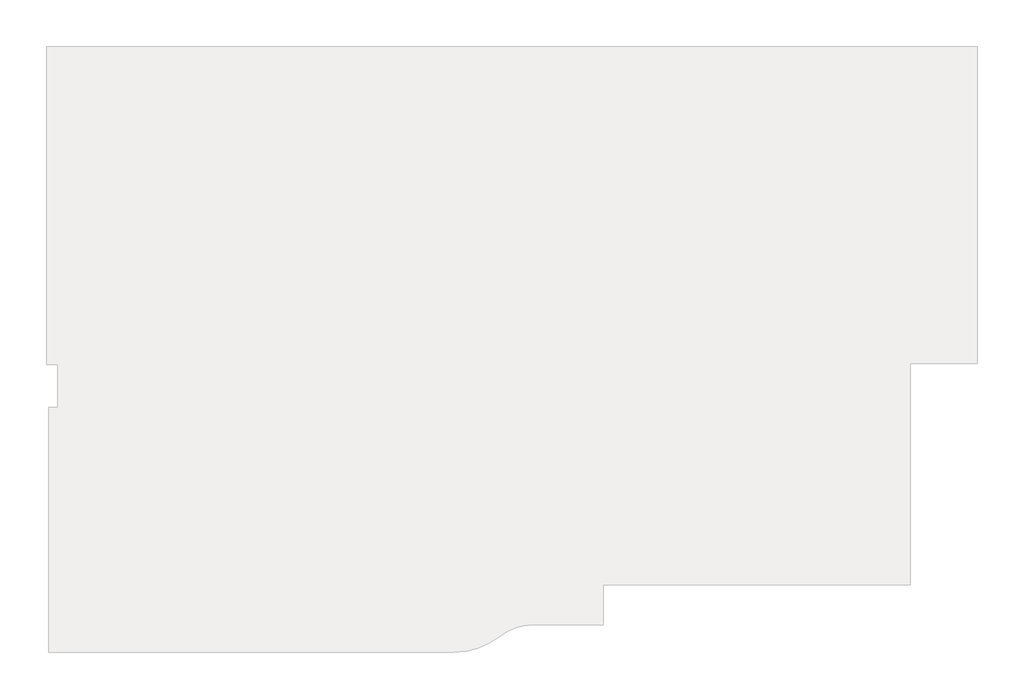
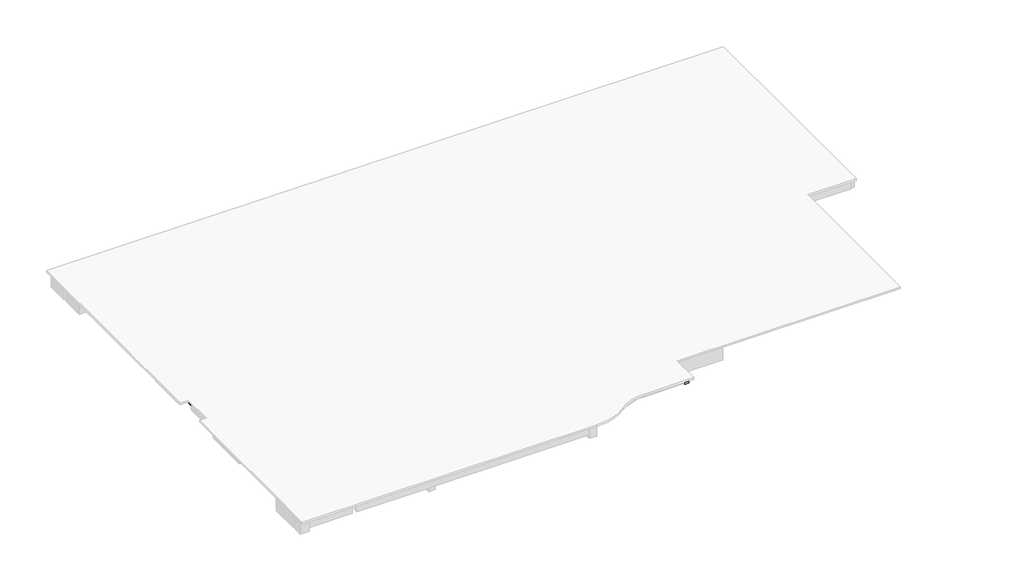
# One storey, part 2 of 3: 31 beams.
"""IFC4 building model written with IfcOpenShell, lengths in millimetres."""

import ifcopenshell
import ifcopenshell.guid

model = None  # the IFC model being written
_history = None  # IfcOwnerHistory: only IFC2X3 demands one
_inside = {}  # id of a spatial element -> (the spatial element, [elements in it])
_under = {}  # id of a project, library or spatial element -> (it, [spatial elements below it])
_declared = {}  # id of a project -> (the project, [libraries it declares])
_typed = {}  # id of a type object -> (the type object, [elements of that type])
_made_of = {}  # id of a material, layer set ... -> (it, [elements and type objects made of it])


def new_model(schema):
    """Start an empty IFC model of exactly this schema.

    Asked for "IFC4X3", IfcOpenShell would pick the latest addendum, in which some entities
    have other attributes; the version numbers below select the first issue.
    IFC2X3 requires an IfcOwnerHistory on every rooted entity: one is made here for all.
    """
    global model, _history
    if schema == "IFC4X3":
        model = ifcopenshell.file(schema_version=(4, 3, 0, 0))
    else:
        model = ifcopenshell.file(schema=schema)
    _inside.clear()
    _under.clear()
    _declared.clear()
    _typed.clear()
    _made_of.clear()
    _history = None
    if model.schema == "IFC2X3":
        org = make("IfcOrganization", Name="unknown")
        user = make(
            "IfcPersonAndOrganization",
            ThePerson=make("IfcPerson", FamilyName="unknown"),
            TheOrganization=org,
        )
        app = make(
            "IfcApplication",
            ApplicationDeveloper=org,
            Version="unknown",
            ApplicationFullName="unknown",
            ApplicationIdentifier="unknown",
        )
        _history = make(
            "IfcOwnerHistory",
            OwningUser=user,
            OwningApplication=app,
            ChangeAction="ADDED",
            CreationDate=0,
        )
    return model


def make(cls, **values):
    """One entity of the class cls with the attributes given. An attribute that is None is left unset."""
    return model.create_entity(
        cls, **{name: value for name, value in values.items() if value is not None}
    )


def rooted(cls, **values):
    """An entity with a GlobalId (a new one), such as an element, a storey or a relation."""
    return make(cls, GlobalId=ifcopenshell.guid.new(), OwnerHistory=_history, **values)


def si_unit(unit_type, name, prefix=None):
    """IfcSIUnit, for example si_unit("LENGTHUNIT", "METRE", prefix="MILLI")."""
    return make("IfcSIUnit", UnitType=unit_type, Prefix=prefix, Name=name)


def assignment(units):
    """IfcUnitAssignment: the units of a project."""
    return None if units is None else make("IfcUnitAssignment", Units=units)


def point(xyz):
    """IfcCartesianPoint."""
    return None if xyz is None else make("IfcCartesianPoint", Coordinates=xyz)


def direction(xyz):
    """IfcDirection."""
    return None if xyz is None else make("IfcDirection", DirectionRatios=xyz)


def frame(location, z_axis=None, x_axis=None):
    """IfcAxis2Placement3D, a coordinate frame: its origin and axes. An axis left out is left unset."""
    return make(
        "IfcAxis2Placement3D",
        Location=point(location),
        Axis=direction(z_axis),
        RefDirection=direction(x_axis),
    )


def origin():
    """The frame at (0, 0, 0) with its axes left unset."""
    return frame((0.0, 0.0, 0.0))


def place(relative_to, where):
    """IfcLocalPlacement: puts the frame where relative to a parent placement (None: the world)."""
    return make(
        "IfcLocalPlacement", PlacementRelTo=relative_to, RelativePlacement=where
    )


def context(
    kind, dimensions, precision=None, world=None, true_north=None, identifier=None
):
    """IfcGeometricRepresentationContext, for example the 3D "Model" context."""
    return make(
        "IfcGeometricRepresentationContext",
        ContextIdentifier=identifier,
        ContextType=kind,
        CoordinateSpaceDimension=dimensions,
        Precision=precision,
        WorldCoordinateSystem=world,
        TrueNorth=true_north,
    )


def project(units=None, contexts=None):
    """IfcProject with its units and contexts."""
    return rooted(
        "IfcProject",
        Name="project",
        RepresentationContexts=contexts,
        UnitsInContext=assignment(units),
    )


def spatial(cls, under=None, at=None, **own):
    """A site, building, storey or space (cls), placed at a placement, below another one or the project."""
    s = rooted(cls, ObjectPlacement=at, **own)
    if under is not None:
        _under.setdefault(under.id(), (under, []))[1].append(s)
    return s


def polyline(points):
    """IfcPolyline through the points."""
    return make("IfcPolyline", Points=[point(p) for p in points])


def outline(outer, holes=None, kind="AREA"):
    """IfcArbitraryClosedProfileDef: a profile drawn as a closed curve; with holes, ...WithVoids."""
    if holes is None:
        return make("IfcArbitraryClosedProfileDef", ProfileType=kind, OuterCurve=outer)
    return make(
        "IfcArbitraryProfileDefWithVoids",
        ProfileType=kind,
        OuterCurve=outer,
        InnerCurves=holes,
    )


def extrude(swept, where, along, depth):
    """IfcExtrudedAreaSolid: the profile swept, set in the frame where, extruded along a direction by depth."""
    return make(
        "IfcExtrudedAreaSolid",
        SweptArea=swept,
        Position=where,
        ExtrudedDirection=direction(along),
        Depth=depth,
    )


def faces_of(points, faces, orient=None, outer=None):
    """IfcFace entities. A face is a list of loops; a loop is a list of indices into points, from 0.

    orient and outer hold one flag for each loop. By default every Orientation is true, the
    first loop of a face is its IfcFaceOuterBound and the others are IfcFaceBound.
    """
    made = []
    for i, loops in enumerate(faces):
        bounds = []
        for j, loop in enumerate(loops):
            is_outer = j == 0 if outer is None else outer[i][j]
            bounds.append(
                make(
                    "IfcFaceOuterBound" if is_outer else "IfcFaceBound",
                    Bound=make("IfcPolyLoop", Polygon=[points[k] for k in loop]),
                    Orientation=True if orient is None else orient[i][j],
                )
            )
        made.append(make("IfcFace", Bounds=bounds))
    return made


def faceted_brep(points, faces, orient=None, outer=None, voids=None):
    """IfcFacetedBrep: a solid bounded by flat faces; with voids (closed shells), ...WithVoids."""
    shared = [point(p) for p in points]
    hull = make("IfcClosedShell", CfsFaces=faces_of(shared, faces, orient, outer))
    if voids is None:
        return make("IfcFacetedBrep", Outer=hull)
    return make(
        "IfcFacetedBrepWithVoids",
        Outer=hull,
        Voids=[
            make(cls, CfsFaces=faces_of(shared, fs, o, b)) for cls, fs, o, b in voids
        ],
    )


def shape(context_of_items, identifier, shape_type, items):
    """IfcShapeRepresentation: the items that make up one representation, for example the "Body"."""
    return make(
        "IfcShapeRepresentation",
        ContextOfItems=context_of_items,
        RepresentationIdentifier=identifier,
        RepresentationType=shape_type,
        Items=items,
    )


def made_of(thing, what):
    """Note that an element or type object is made of a material, layer set ...; save() writes the relation."""
    if what is not None:
        _made_of.setdefault(what.id(), (what, []))[1].append(thing)
    return thing


def element(
    cls,
    number,
    at=None,
    inside=None,
    cuts=None,
    type_object=None,
    material=None,
    context=None,
    identifier="Body",
    shape_type=None,
    held_by="IfcProductDefinitionShape",
    body=None,
    shapes=None,
    **own,
):
    """One element of the class cls, such as IfcWall. Its Tag is "e" and its number.

    at: its placement. inside: the storey or other place that contains it. cuts: it is an
    opening in that element (IfcRelVoidsElement). A single representation is given by context,
    identifier, shape_type and body (its items); several are given by shapes. held_by: the class
    of the entity that holds the representations. save() writes the other relations.
    """
    e = rooted(cls, Tag="e%d" % number, ObjectPlacement=at, **own)
    if body is not None:
        shapes = [shape(context, identifier, shape_type, body)]
    if shapes is not None:
        e.Representation = make(held_by, Representations=shapes)
    if inside is not None:
        _inside.setdefault(inside.id(), (inside, []))[1].append(e)
    if cuts is not None:
        rooted(
            "IfcRelVoidsElement", RelatingBuildingElement=cuts, RelatedOpeningElement=e
        )
    if type_object is not None:
        _typed.setdefault(type_object.id(), (type_object, []))[1].append(e)
    return made_of(e, material)


def aggregate(whole, parts):
    """IfcRelAggregates: a whole, such as a stair, and the parts it consists of."""
    return rooted("IfcRelAggregates", RelatingObject=whole, RelatedObjects=parts)


def save(model, path):
    """Write the relations noted so far, then the file.

    IfcRelAggregates (storeys below a building ...), IfcRelContainedInSpatialStructure (elements
    in a storey), IfcRelDefinesByType, IfcRelAssociatesMaterial and IfcRelDeclares: one each for
    every whole, place, type object, material and project.
    """
    for whole, parts in _under.values():
        aggregate(whole, parts)
    for where, things in _inside.values():
        rooted(
            "IfcRelContainedInSpatialStructure",
            RelatedElements=things,
            RelatingStructure=where,
        )
    for kind, things in _typed.values():
        rooted("IfcRelDefinesByType", RelatedObjects=things, RelatingType=kind)
    for what, things in _made_of.values():
        rooted("IfcRelAssociatesMaterial", RelatedObjects=things, RelatingMaterial=what)
    for by, libraries in _declared.values():
        rooted("IfcRelDeclares", RelatingContext=by, RelatedDefinitions=libraries)
    model.write(path)


model = new_model("IFC4")

# Units and contexts
model_context = context("Model", 3, world=origin())
ifc_project = project(units=[si_unit("LENGTHUNIT", "METRE", prefix="MILLI")], contexts=[model_context])

# Site, building, storey
site = spatial("IfcSite", under=ifc_project)
building = spatial("IfcBuilding", under=site)
storey = spatial("IfcBuildingStorey", under=building, Name="21F(S)", Elevation=4100.0)

# Beams
placement = place(None, origin())
element("IfcBeam", 1, ObjectType="混凝土 - 矩形梁 : 150x400", at=placement, inside=storey, context=model_context, shape_type="SweptSolid", body=[
    extrude(outline(polyline([(31799.9994292, 0.503091), (31649.9994292, 0.503091), (31649.9994292, 2319.503091), (31799.9994292, 2319.503091), (31799.9994292, 0.503091)])), frame((0.0, 0.0, 3700.0), z_axis=(0.0, 0.0, 1.0), x_axis=(1.0, 0.0, 0.0)), (0.0, 0.0, 1.0), 300.0),
])
element("IfcBeam", 2, ObjectType="混凝土 - 矩形梁 : 200x400", at=placement, inside=storey, context=model_context, shape_type="SweptSolid", body=[
    extrude(outline(polyline([(29149.9999994, 6119.99237), (29149.9999994, 5919.99237), (27849.9999994, 5919.99237), (27849.9999994, 6119.99237), (29149.9999994, 6119.99237)])), frame((0.0, 0.0, 3700.0), z_axis=(0.0, 0.0, 1.0), x_axis=(1.0, 0.0, 0.0)), (0.0, 0.0, 1.0), 300.0),
])
element("IfcBeam", 3, ObjectType="混凝土 - 矩形梁 : 200x400", at=placement, inside=storey, context=model_context, shape_type="SweptSolid", body=[
    extrude(outline(polyline([(26449.9999987, 6119.99237), (26449.9999987, 5919.99237), (25149.9999987, 5919.99237), (25149.9999987, 6119.99237), (26449.9999987, 6119.99237)])), frame((0.0, 0.0, 3700.0), z_axis=(0.0, 0.0, 1.0), x_axis=(1.0, 0.0, 0.0)), (0.0, 0.0, 1.0), 300.0),
])
element("IfcBeam", 4, ObjectType="混凝土 - 矩形梁 : 200x400", at=placement, inside=storey, context=model_context, shape_type="SweptSolid", body=[
    extrude(outline(polyline([(32349.4996529, 6119.8951153), (32349.4996529, 5919.8951153), (29950.4996529, 5919.8951153), (29950.4996529, 6119.8951153), (32349.4996529, 6119.8951153)])), frame((0.0, 0.0, 3700.0), z_axis=(0.0, 0.0, 1.0), x_axis=(1.0, 0.0, 0.0)), (0.0, 0.0, 1.0), 300.0),
])
element("IfcBeam", 5, ObjectType="混凝土 - 矩形梁 : 200x400", at=placement, inside=storey, context=model_context, shape_type="SweptSolid", body=[
    extrude(outline(polyline([(25659.9999994, 2519.99237), (25659.9999994, 2319.99237), (24419.9999994, 2319.99237), (24419.9999994, 2519.99237), (25659.9999994, 2519.99237)])), frame((0.0, 0.0, 3700.0), z_axis=(0.0, 0.0, 1.0), x_axis=(1.0, 0.0, 0.0)), (0.0, 0.0, 1.0), 300.0),
])
element("IfcBeam", 6, ObjectType="混凝土 - 矩形梁 : 200x400", at=placement, inside=storey, context=model_context, shape_type="SweptSolid", body=[
    extrude(outline(polyline([(28349.9999993, 2519.99237), (28349.9999993, 2319.99237), (27049.9999993, 2319.99237), (27049.9999993, 2519.99237), (28349.9999993, 2519.99237)])), frame((0.0, 0.0, 3700.0), z_axis=(0.0, 0.0, 1.0), x_axis=(1.0, 0.0, 0.0)), (0.0, 0.0, 1.0), 300.0),
])
element("IfcBeam", 7, ObjectType="混凝土 - 矩形梁 : 200x400", at=placement, inside=storey, context=model_context, shape_type="SweptSolid", body=[
    extrude(outline(polyline([(31049.9999995, 2519.99237), (31049.9999995, 2319.99237), (29749.9999995, 2319.99237), (29749.9999995, 2519.99237), (31049.9999995, 2519.99237)])), frame((0.0, 0.0, 3700.0), z_axis=(0.0, 0.0, 1.0), x_axis=(1.0, 0.0, 0.0)), (0.0, 0.0, 1.0), 300.0),
])
element("IfcBeam", 8, ObjectType="混凝土 - 矩形梁 : 200x400", at=placement, inside=storey, context=model_context, shape_type="Brep", body=[
    faceted_brep([(2760.4996561, 14919.8960966, 3700.0), (2760.4996561, 14719.8960966, 3700.0), (2760.4996561, 14719.8960966, 4000.0), (2760.4996561, 14919.8960966, 4000.0), (3750.0289826, 14719.8960966, 3700.0), (3950.0289826, 14719.8960966, 3700.0), (6149.9993113, 14719.8960966, 3700.0), (6149.9993113, 14719.8960966, 4000.0), (3950.0289826, 14719.8960966, 4000.0), (3750.0289826, 14719.8960966, 4000.0), (6149.9993113, 14919.8960966, 3700.0), (6149.9993113, 14919.8960966, 4000.0)], [[[0, 1, 2, 3]], [[1, 4, 5, 6, 7, 8, 9, 2]], [[1, 0, 10, 6, 5, 4]], [[10, 0, 3, 11]], [[6, 10, 11, 7]], [[3, 2, 9, 8, 7, 11]]]),
])
element("IfcBeam", 9, ObjectType="混凝土 - 矩形梁 : 200x400", at=placement, inside=storey, context=model_context, shape_type="SweptSolid", body=[
    extrude(outline(polyline([(3950.0289826, 13900.5031102), (3750.0289826, 13900.5031102), (3750.0289826, 14719.8960966), (3950.0289826, 14719.8960966), (3950.0289826, 13900.5031102)])), frame((0.0, 0.0, 3700.0), z_axis=(0.0, 0.0, 1.0), x_axis=(1.0, 0.0, 0.0)), (0.0, 0.0, 1.0), 300.0),
])
element("IfcBeam", 10, ObjectType="混凝土 - 矩形梁 : 200x400", at=placement, inside=storey, context=model_context, shape_type="SweptSolid", body=[
    extrude(outline(polyline([(24619.9999987, 6119.99237), (24419.9999987, 6119.99237), (24419.9999987, 8439.99237), (24619.9999987, 8439.99237), (24619.9999987, 6119.99237)])), frame((0.0, 0.0, 3700.0), z_axis=(0.0, 0.0, 1.0), x_axis=(1.0, 0.0, 0.0)), (0.0, 0.0, 1.0), 300.0),
])
element("IfcBeam", 11, ObjectType="混凝土 - 矩形梁 : 200x400", at=placement, inside=storey, context=model_context, shape_type="SweptSolid", body=[
    extrude(outline(polyline([(-149.4999646, 12580.0061443), (-149.4999646, 12780.0061443), (2460.0000009, 12780.0061443), (2460.0000009, 12580.0061443), (-149.4999646, 12580.0061443)])), frame((0.0, 0.0, 3700.0), z_axis=(0.0, 0.0, 1.0), x_axis=(1.0, 0.0, 0.0)), (0.0, 0.0, 1.0), 300.0),
])
element("IfcBeam", 12, ObjectType="混凝土 - 矩形梁 : 200x400", at=placement, inside=storey, context=model_context, shape_type="Brep", body=[
    faceted_brep([(3650.0289828, 13599.917579, 3700.0), (3450.0289828, 13599.917579, 3700.0), (3450.0289828, 13599.917579, 4000.0), (3650.0289828, 13599.917579, 4000.0), (3450.0289828, 12550.0138523, 3700.0), (3450.0289828, 12350.0138523, 3700.0), (3450.0289828, 11300.1024559, 3700.0), (3450.0289828, 11300.1024559, 4000.0), (3450.0289828, 12350.0138523, 4000.0), (3450.0289828, 12550.0138523, 4000.0), (3650.0289828, 11300.1024559, 3700.0), (3650.0289828, 11300.1024559, 4000.0)], [[[0, 1, 2, 3]], [[1, 4, 5, 6, 7, 8, 9, 2]], [[1, 0, 10, 6, 5, 4]], [[10, 0, 3, 11]], [[6, 10, 11, 7]], [[3, 2, 9, 8, 7, 11]]]),
])
element("IfcBeam", 13, ObjectType="混凝土 - 矩形梁 : 200x400", at=placement, inside=storey, context=model_context, shape_type="Brep", body=[
    faceted_brep([(2760.0144919, 12550.0138523, 3700.0), (2760.0144919, 12350.0138523, 3700.0), (2760.0144919, 12350.0138523, 4000.0), (2760.0144919, 12450.5069463, 4000.0), (2760.0144919, 12550.0138523, 4000.0), (3450.0289828, 12550.0138523, 3700.0), (3450.0289828, 12550.0138523, 4000.0), (3450.0289828, 12350.0138523, 3700.0), (3450.0289828, 12350.0138523, 4000.0)], [[[0, 1, 2, 3, 4]], [[5, 0, 4, 6]], [[1, 0, 5, 7]], [[1, 7, 8, 2]], [[7, 5, 6, 8]], [[4, 3, 2, 8, 6]]]),
])
element("IfcBeam", 14, ObjectType="混凝土 - 矩形梁 : 200x600", at=placement, inside=storey, context=model_context, shape_type="Brep", body=[
    faceted_brep([(20680.0000015, -380.00763, 3500.0), (20680.0000015, -1199.8975826, 3500.0), (20680.0000015, -1399.8975826, 3500.0), (20680.0000015, -1453.0229285, 3500.0), (20680.0000015, -1453.0229285, 4000.0), (20680.0000015, -1399.8975826, 4000.0), (20680.0000015, -1199.8975826, 4000.0), (20680.0000015, -380.00763, 4000.0), (20880.0000015, -1453.0229285, 3500.0), (20880.0000015, -380.00763, 3500.0), (20880.0000015, -380.00763, 4000.0), (20880.0000015, -1453.0229285, 4000.0)], [[[0, 1, 2, 3, 4, 5, 6, 7]], [[8, 3, 2, 1, 0, 9]], [[8, 9, 10, 11]], [[3, 8, 11, 4]], [[9, 0, 7, 10]], [[7, 6, 5, 4, 11, 10]]]),
    faceted_brep([(20880.0000015, 2520.0955285, 3500.0), (20680.0000015, 2520.0955285, 3500.0), (20680.0000015, 2520.0955285, 3600.0), (20880.0000015, 2520.0955285, 3600.0), (20880.0000015, 2220.0955285, 3600.0), (20680.0000015, 2220.0955285, 3600.0), (20680.0000015, 2220.0955285, 4000.0), (20880.0000015, 2220.0955285, 4000.0), (20680.0000015, 619.9847014, 3500.0), (20880.0000015, 619.9847014, 3500.0), (20880.0000015, 619.9847014, 4000.0), (20680.0000015, 619.9847014, 4000.0), (20680.0000015, 1309.9923683, 3500.0), (20680.0000015, 1069.9923683, 3500.0), (20680.0000015, 1069.9923683, 4000.0), (20680.0000015, 1309.9923683, 4000.0), (20880.0000015, 1309.9923683, 3500.0), (20880.0000015, 1069.9923683, 3500.0), (20880.0000015, 1309.9923683, 4000.0), (20880.0000015, 1069.9923683, 4000.0)], [[[0, 1, 2, 3]], [[4, 5, 6, 7]], [[5, 4, 3, 2]], [[8, 9, 10, 11]], [[2, 1, 12, 13, 8, 11, 14, 15, 6, 5]], [[1, 0, 16, 17, 9, 8, 13, 12]], [[0, 3, 4, 7, 18, 19, 10, 9, 17, 16]], [[7, 6, 15, 14, 11, 10, 19, 18]]]),
    faceted_brep([(20880.0000015, 419.9847014, 3500.0), (20680.0000015, 419.9847014, 3500.0), (20680.0000015, 419.9847014, 4000.0), (20880.0000015, 419.9847014, 4000.0), (20680.0000015, 19.99237, 3500.0), (20880.0000015, 19.99237, 3500.0), (20880.0000015, 19.99237, 4000.0), (20680.0000015, 19.99237, 4000.0)], [[[0, 1, 2, 3]], [[4, 5, 6, 7]], [[1, 4, 7, 2]], [[1, 0, 5, 4]], [[5, 0, 3, 6]], [[3, 2, 7, 6]]]),
])
element("IfcBeam", 15, ObjectType="混凝土 - 矩形梁 : 250x500", at=placement, inside=storey, context=model_context, shape_type="Brep", body=[
    faceted_brep([(10525.000833, -200.0, 3600.0), (10525.000833, -2590.0076663, 3600.0), (10525.000833, -2590.0076663, 4000.0), (10525.000833, -200.0, 4000.0), (10775.000833, -2590.0076663, 3600.0), (10775.000833, -200.0, 3600.0), (10775.000833, -200.0, 4000.0), (10775.000833, -2590.0076663, 4000.0)], [[[0, 1, 2, 3]], [[4, 1, 0, 5]], [[4, 5, 6, 7]], [[1, 4, 7, 2]], [[5, 0, 3, 6]], [[3, 2, 7, 6]]]),
    faceted_brep([(10525.000833, 17600.0, 3600.0), (10775.000833, 17600.0, 3600.0), (10775.000833, 17600.0, 4000.0), (10525.000833, 17600.0, 4000.0), (10775.000833, 19989.9923697, 3600.0), (10525.000833, 19989.9923697, 3600.0), (10525.000833, 19989.9923697, 4000.0), (10775.000833, 19989.9923697, 4000.0)], [[[0, 1, 2, 3]], [[4, 5, 6, 7]], [[5, 0, 3, 6]], [[1, 0, 5, 4]], [[1, 4, 7, 2]], [[3, 2, 7, 6]]]),
    faceted_brep([(10775.000833, 17200.0, 3600.0), (10525.000833, 17200.0, 3600.0), (10525.000833, 17200.0, 4000.0), (10775.000833, 17200.0, 4000.0), (10525.000833, 2550.0, 3600.0), (10775.000833, 2550.0, 3600.0), (10775.000833, 2550.0, 4000.0), (10525.000833, 2550.0, 4000.0), (10525.000833, 13900.1101258, 3600.0), (10525.000833, 13600.1101258, 3600.0), (10525.000833, 11250.1024559, 3600.0), (10525.000833, 11000.1024559, 3600.0), (10525.000833, 8900.1100854, 3600.0), (10525.000833, 8500.1100854, 3600.0), (10525.000833, 6980.0056251, 3600.0), (10525.000833, 6880.0056251, 3600.0), (10525.000833, 6169.9770708, 3600.0), (10525.000833, 5919.9770708, 3600.0), (10525.000833, 5919.9770708, 4000.0), (10525.000833, 6169.9770708, 4000.0), (10525.000833, 6880.0056251, 4000.0), (10525.000833, 6980.0056251, 4000.0), (10525.000833, 8500.1100854, 4000.0), (10525.000833, 8900.1100854, 4000.0), (10525.000833, 11000.1024559, 4000.0), (10525.000833, 11250.1024559, 4000.0), (10525.000833, 13600.1101258, 4000.0), (10525.000833, 13900.1101258, 4000.0), (10775.000833, 13900.1101258, 3600.0), (10775.000833, 13600.1101258, 3600.0), (10775.000833, 11250.1024559, 3600.0), (10775.000833, 11000.1024559, 3600.0), (10775.000833, 8900.1100854, 3600.0), (10775.000833, 8500.1100854, 3600.0), (10775.000833, 6980.0056251, 3600.0), (10775.000833, 6880.0056251, 3600.0), (10775.000833, 6169.9770708, 3600.0), (10775.000833, 5919.9770708, 3600.0), (10775.000833, 2900.0000384, 3600.0), (10775.000833, 2800.0000384, 3600.0), (10775.000833, 13900.1101258, 4000.0), (10775.000833, 13600.1101258, 4000.0), (10775.000833, 11250.1024559, 4000.0), (10775.000833, 11000.1024559, 4000.0), (10775.000833, 8900.1100854, 4000.0), (10775.000833, 8500.1100854, 4000.0), (10775.000833, 6980.0056251, 4000.0), (10775.000833, 6880.0056251, 4000.0), (10775.000833, 6169.9770708, 4000.0), (10775.000833, 5919.9770708, 4000.0), (10775.000833, 2900.0000384, 4000.0), (10775.000833, 2800.0000384, 4000.0)], [[[0, 1, 2, 3]], [[4, 5, 6, 7]], [[1, 8, 9, 10, 11, 12, 13, 14, 15, 16, 17, 4, 7, 18, 19, 20, 21, 22, 23, 24, 25, 26, 27, 2]], [[1, 0, 28, 29, 30, 31, 32, 33, 34, 35, 36, 37, 38, 39, 5, 4, 17, 16, 15, 14, 13, 12, 11, 10, 9, 8]], [[5, 39, 38, 37, 36, 35, 34, 33, 32, 31, 30, 29, 28, 0, 3, 40, 41, 42, 43, 44, 45, 46, 47, 48, 49, 50, 51, 6]], [[3, 2, 27, 26, 25, 24, 23, 22, 21, 20, 19, 18, 7, 6, 51, 50, 49, 48, 47, 46, 45, 44, 43, 42, 41, 40]]]),
    faceted_brep([(10775.000833, 2250.0, 3600.0), (10525.000833, 2250.0, 3600.0), (10525.000833, 2250.0, 4000.0), (10775.000833, 2250.0, 4000.0), (10525.000833, 200.0, 3600.0), (10775.000833, 200.0, 3600.0), (10775.000833, 200.0, 4000.0), (10525.000833, 200.0, 4000.0)], [[[0, 1, 2, 3]], [[4, 5, 6, 7]], [[1, 4, 7, 2]], [[1, 0, 5, 4]], [[5, 0, 3, 6]], [[3, 2, 7, 6]]]),
])
element("IfcBeam", 16, ObjectType="混凝土 - 矩形梁 : 250x500", at=placement, inside=storey, context=model_context, shape_type="Brep", body=[
    faceted_brep([(10775.000833, 5919.9770708, 3600.0), (10815.0000007, 5919.9770708, 3600.0), (13565.0000007, 5919.9770708, 3600.0), (13665.0000007, 5919.9770708, 3600.0), (14800.000833, 5919.9770708, 3600.0), (14800.000833, 5919.9770708, 4000.0), (13665.0000007, 5919.9770708, 4000.0), (13565.0000007, 5919.9770708, 4000.0), (10815.0000007, 5919.9770708, 4000.0), (10775.000833, 5919.9770708, 4000.0), (10775.000833, 6169.9770708, 3600.0), (10815.0000007, 6169.9770708, 3600.0), (13565.0000007, 6169.9770708, 3600.0), (13665.0000007, 6169.9770708, 3600.0), (14800.000833, 6169.9770708, 3600.0), (10775.000833, 6169.9770708, 4000.0), (10815.0000007, 6169.9770708, 4000.0), (13565.0000007, 6169.9770708, 4000.0), (13665.0000007, 6169.9770708, 4000.0), (14800.000833, 6169.9770708, 4000.0)], [[[0, 1, 2, 3, 4, 5, 6, 7, 8, 9]], [[0, 10, 11, 12, 13, 14, 4, 3, 2, 1]], [[14, 13, 12, 11, 10, 15, 16, 17, 18, 19]], [[10, 0, 9, 15]], [[4, 14, 19, 5]], [[9, 8, 7, 6, 5, 19, 18, 17, 16, 15]]]),
    faceted_brep([(6599.9993078, 6169.9770708, 3600.0), (6599.9993078, 5919.9770708, 3600.0), (6599.9993078, 5919.9770708, 4000.0), (6599.9993078, 6169.9770708, 4000.0), (10525.000833, 5919.9770708, 3600.0), (10525.000833, 6169.9770708, 3600.0), (10525.000833, 6169.9770708, 4000.0), (10525.000833, 5919.9770708, 4000.0)], [[[0, 1, 2, 3]], [[4, 5, 6, 7]], [[1, 4, 7, 2]], [[1, 0, 5, 4]], [[5, 0, 3, 6]], [[3, 2, 7, 6]]]),
])
element("IfcBeam", 17, ObjectType="混凝土 - 矩形梁 : 250x500", at=placement, inside=storey, context=model_context, shape_type="SweptSolid", body=[
    extrude(outline(polyline([(6450.0004165, 11000.1024559), (6450.0004165, 11250.1024559), (10525.000833, 11250.1024559), (10525.000833, 11000.1024559), (6450.0004165, 11000.1024559)])), frame((0.0, 0.0, 3600.0), z_axis=(0.0, 0.0, 1.0), x_axis=(1.0, 0.0, 0.0)), (0.0, 0.0, 1.0), 400.0),
    extrude(outline(polyline([(14800.000833, 11250.1024559), (14800.000833, 11000.1024559), (10775.000833, 11000.1024559), (10775.000833, 11250.1024559), (14800.000833, 11250.1024559)])), frame((0.0, 0.0, 3600.0), z_axis=(0.0, 0.0, 1.0), x_axis=(1.0, 0.0, 0.0)), (0.0, 0.0, 1.0), 400.0),
])
element("IfcBeam", 18, ObjectType="混凝土 - 矩形梁 : 250x500", at=placement, inside=storey, context=model_context, shape_type="Brep", body=[
    faceted_brep([(18924.9993071, 19989.9923697, 3600.0), (18924.9993071, 17600.0, 3600.0), (18924.9993071, 17600.0, 4000.0), (18924.9993071, 19989.9923697, 4000.0), (19174.9993071, 17600.0, 3600.0), (19174.9993071, 19989.9923697, 3600.0), (19174.9993071, 19989.9923697, 4000.0), (19174.9993071, 17600.0, 4000.0)], [[[0, 1, 2, 3]], [[4, 1, 0, 5]], [[4, 5, 6, 7]], [[1, 4, 7, 2]], [[5, 0, 3, 6]], [[3, 2, 7, 6]]]),
    faceted_brep([(19174.9993071, 2220.0955285, 3600.0), (18924.9993071, 2220.0955285, 3600.0), (18924.9993071, 2220.0955285, 4000.0), (19174.9993071, 2220.0955285, 4000.0), (18924.9993071, 19.99237, 3600.0), (19174.9993071, 19.99237, 3600.0), (19174.9993071, 19.99237, 4000.0), (18924.9993071, 19.99237, 4000.0)], [[[0, 1, 2, 3]], [[4, 5, 6, 7]], [[1, 4, 7, 2]], [[1, 0, 5, 4]], [[5, 0, 3, 6]], [[3, 2, 7, 6]]]),
    faceted_brep([(18924.9993071, 2520.0955285, 3600.0), (19174.9993071, 2520.0955285, 3600.0), (19174.9993071, 2520.0955285, 4000.0), (18924.9993071, 2520.0955285, 4000.0), (19174.9993071, 5919.9770708, 3600.0), (18924.9993071, 5919.9770708, 3600.0), (18924.9993071, 5919.9770708, 4000.0), (19174.9993071, 5919.9770708, 4000.0)], [[[0, 1, 2, 3]], [[4, 5, 6, 7]], [[5, 0, 3, 6]], [[1, 0, 5, 4]], [[1, 4, 7, 2]], [[3, 2, 7, 6]]]),
    faceted_brep([(18924.9993071, -380.00763, 3600.0), (18924.9993071, -1199.8975826, 3600.0), (18924.9993071, -1199.8975826, 4000.0), (18924.9993071, -380.00763, 4000.0), (19174.9993071, -1199.8975826, 3600.0), (19174.9993071, -380.00763, 3600.0), (19174.9993071, -380.00763, 4000.0), (19174.9993071, -1199.8975826, 4000.0)], [[[0, 1, 2, 3]], [[4, 1, 0, 5]], [[4, 5, 6, 7]], [[1, 4, 7, 2]], [[5, 0, 3, 6]], [[3, 2, 7, 6]]]),
    faceted_brep([(19174.9993071, 17200.0, 3600.0), (18924.9993071, 17200.0, 3600.0), (18924.9993071, 17200.0, 4000.0), (19174.9993071, 17200.0, 4000.0), (18924.9993071, 13900.1101258, 3600.0), (19174.9993071, 13900.1101258, 3600.0), (19174.9993071, 13900.1101258, 4000.0), (18924.9993071, 13900.1101258, 4000.0)], [[[0, 1, 2, 3]], [[4, 5, 6, 7]], [[1, 4, 7, 2]], [[1, 0, 5, 4]], [[5, 0, 3, 6]], [[3, 2, 7, 6]]]),
    faceted_brep([(18924.9993071, 6219.9770708, 3600.0), (19174.9993071, 6219.9770708, 3600.0), (19174.9993071, 6219.9770708, 4000.0), (18924.9993071, 6219.9770708, 4000.0), (19174.9993071, 13650.1101258, 3600.0), (18924.9993071, 13650.1101258, 3600.0), (18924.9993071, 13650.1101258, 4000.0), (19174.9993071, 13650.1101258, 4000.0), (18924.9993071, 11250.1024559, 3600.0), (18924.9993071, 11000.1024559, 3600.0), (18924.9993071, 8900.0, 3600.0), (18924.9993071, 8500.0, 3600.0), (18924.9993071, 6980.016621, 3600.0), (18924.9993071, 6880.016621, 3600.0), (18924.9993071, 6880.016621, 4000.0), (18924.9993071, 6980.016621, 4000.0), (18924.9993071, 8500.0, 4000.0), (18924.9993071, 8900.0, 4000.0), (18924.9993071, 11000.1024559, 4000.0), (18924.9993071, 11250.1024559, 4000.0), (19174.9993071, 11250.1024559, 3600.0), (19174.9993071, 11000.1024559, 3600.0), (19174.9993071, 8900.0, 3600.0), (19174.9993071, 8500.0, 3600.0), (19174.9993071, 6980.016621, 3600.0), (19174.9993071, 6880.016621, 3600.0), (19174.9993071, 11250.1024559, 4000.0), (19174.9993071, 11000.1024559, 4000.0), (19174.9993071, 8900.0, 4000.0), (19174.9993071, 8500.0, 4000.0), (19174.9993071, 6980.016621, 4000.0), (19174.9993071, 6880.016621, 4000.0)], [[[0, 1, 2, 3]], [[4, 5, 6, 7]], [[5, 8, 9, 10, 11, 12, 13, 0, 3, 14, 15, 16, 17, 18, 19, 6]], [[1, 0, 13, 12, 11, 10, 9, 8, 5, 4, 20, 21, 22, 23, 24, 25]], [[1, 25, 24, 23, 22, 21, 20, 4, 7, 26, 27, 28, 29, 30, 31, 2]], [[3, 2, 31, 30, 29, 28, 27, 26, 7, 6, 19, 18, 17, 16, 15, 14]]]),
])
element("IfcBeam", 19, ObjectType="混凝土 - 矩形梁 : 300x500", at=placement, inside=storey, context=model_context, shape_type="Brep", body=[
    faceted_brep([(15200.000833, 2220.0955285, 3600.0), (18924.9993071, 2220.0955285, 3600.0), (19174.9993071, 2220.0955285, 3600.0), (20680.0000015, 2220.0955285, 3600.0), (20880.0000015, 2220.0955285, 3600.0), (23320.0006958, 2220.0955285, 3600.0), (23320.0006958, 2220.0955285, 4000.0), (20880.0000015, 2220.0955285, 4000.0), (20680.0000015, 2220.0955285, 4000.0), (19174.9993071, 2220.0955285, 4000.0), (18924.9993071, 2220.0955285, 4000.0), (15200.000833, 2220.0955285, 4000.0), (15200.000833, 2520.0955285, 3600.0), (18924.9993071, 2520.0955285, 3600.0), (19174.9993071, 2520.0955285, 3600.0), (20680.0000015, 2520.0955285, 3600.0), (20880.0000015, 2520.0955285, 3600.0), (23320.0006958, 2520.0955285, 3600.0), (15200.000833, 2520.0955285, 4000.0), (18924.9993071, 2520.0955285, 4000.0), (19174.9993071, 2520.0955285, 4000.0), (23320.0006958, 2520.0955285, 4000.0)], [[[0, 1, 2, 3, 4, 5, 6, 7, 8, 9, 10, 11]], [[0, 12, 13, 14, 15, 16, 17, 5, 4, 3, 2, 1]], [[17, 16, 15, 14, 13, 12, 18, 19, 20, 21]], [[12, 0, 11, 18]], [[5, 17, 21, 6]], [[11, 10, 9, 8, 7, 6, 21, 20, 19, 18]]]),
])
element("IfcBeam", 20, ObjectType="混凝土 - 矩形梁 : 300x500", at=placement, inside=storey, context=model_context, shape_type="Brep", body=[
    faceted_brep([(15200.000833, 5919.9770708, 3600.0), (16415.0000007, 5919.9770708, 3600.0), (16515.0000007, 5919.9770708, 3600.0), (18924.9993071, 5919.9770708, 3600.0), (19174.9993071, 5919.9770708, 3600.0), (21620.0000001, 5919.9770708, 3600.0), (21720.0000001, 5919.9770708, 3600.0), (23320.0006958, 5919.9770708, 3600.0), (23320.0006958, 5919.9770708, 4000.0), (21720.0000001, 5919.9770708, 4000.0), (21620.0000001, 5919.9770708, 4000.0), (19174.9993071, 5919.9770708, 4000.0), (18924.9993071, 5919.9770708, 4000.0), (16515.0000007, 5919.9770708, 4000.0), (16415.0000007, 5919.9770708, 4000.0), (15200.000833, 5919.9770708, 4000.0), (23320.0006958, 6219.9770708, 3600.0), (15200.000833, 6219.9770708, 3600.0), (16415.0000007, 6219.9770708, 3600.0), (16515.0000007, 6219.9770708, 3600.0), (18924.9993071, 6219.9770708, 3600.0), (19174.9993071, 6219.9770708, 3600.0), (21620.0000001, 6219.9770708, 3600.0), (21720.0000001, 6219.9770708, 3600.0), (15200.000833, 6219.9770708, 4000.0), (16415.0000007, 6219.9770708, 4000.0), (16515.0000007, 6219.9770708, 4000.0), (18924.9993071, 6219.9770708, 4000.0), (19174.9993071, 6219.9770708, 4000.0), (21620.0000001, 6219.9770708, 4000.0), (21720.0000001, 6219.9770708, 4000.0), (23320.0006958, 6219.9770708, 4000.0)], [[[0, 1, 2, 3, 4, 5, 6, 7, 8, 9, 10, 11, 12, 13, 14, 15]], [[16, 7, 6, 5, 4, 3, 2, 1, 0, 17, 18, 19, 20, 21, 22, 23]], [[16, 23, 22, 21, 20, 19, 18, 17, 24, 25, 26, 27, 28, 29, 30, 31]], [[7, 16, 31, 8]], [[17, 0, 15, 24]], [[15, 14, 13, 12, 11, 10, 9, 8, 31, 30, 29, 28, 27, 26, 25, 24]]]),
])
element("IfcBeam", 21, ObjectType="混凝土 - 矩形梁 : 300x500", at=placement, inside=storey, context=model_context, shape_type="SweptSolid", body=[
    extrude(outline(polyline([(1930.0000011, 11300.0000384), (1930.0000011, 11000.0000384), (610.0000011, 11000.0000384), (610.0000011, 11300.0000384), (1930.0000011, 11300.0000384)])), frame((0.0, 0.0, 3600.0), z_axis=(0.0, 0.0, 1.0), x_axis=(1.0, 0.0, 0.0)), (0.0, 0.0, 1.0), 400.0),
])
element("IfcBeam", 22, ObjectType="混凝土 - 矩形梁 : 300x500", at=placement, inside=storey, context=model_context, shape_type="SweptSolid", body=[
    extrude(outline(polyline([(5550.0000005, 11300.1024559), (5550.0000005, 11000.1024559), (3650.0000003, 11000.1024559), (3650.0000003, 11300.1024559), (5550.0000005, 11300.1024559)])), frame((0.0, 0.0, 3600.0), z_axis=(0.0, 0.0, 1.0), x_axis=(1.0, 0.0, 0.0)), (0.0, 0.0, 1.0), 400.0),
    extrude(outline(polyline([(2760.0000005, 11000.1024559), (2760.0000005, 11300.1024559), (3450.0000003, 11300.1024559), (3450.0000003, 11000.1024559), (2760.0000005, 11000.1024559)])), frame((0.0, 0.0, 3600.0), z_axis=(0.0, 0.0, 1.0), x_axis=(1.0, 0.0, 0.0)), (0.0, 0.0, 1.0), 400.0),
])
element("IfcBeam", 23, ObjectType="混凝土 - 矩形梁 : 300x500", at=placement, inside=storey, context=model_context, shape_type="SweptSolid", body=[
    extrude(outline(polyline([(6450.0004165, 13600.1101258), (6450.0004165, 13900.1101258), (10525.000833, 13900.1101258), (10525.000833, 13600.1101258), (6450.0004165, 13600.1101258)])), frame((0.0, 0.0, 3600.0), z_axis=(0.0, 0.0, 1.0), x_axis=(1.0, 0.0, 0.0)), (0.0, 0.0, 1.0), 400.0),
    extrude(outline(polyline([(14800.000833, 13900.1101258), (14800.000833, 13600.1101258), (10775.000833, 13600.1101258), (10775.000833, 13900.1101258), (14800.000833, 13900.1101258)])), frame((0.0, 0.0, 3600.0), z_axis=(0.0, 0.0, 1.0), x_axis=(1.0, 0.0, 0.0)), (0.0, 0.0, 1.0), 400.0),
])
element("IfcBeam", 24, ObjectType="混凝土 - 矩形梁 : 300x500", at=placement, inside=storey, context=model_context, shape_type="Brep", body=[
    faceted_brep([(2460.0000009, 12450.5069463, 3600.0), (2760.0000009, 12450.5069463, 3600.0), (2760.0000009, 12450.5069463, 4000.0), (2460.0000009, 12450.5069463, 4000.0), (2760.0000009, 12949.5069463, 3600.0), (2460.0000009, 12949.5069463, 3600.0), (2460.0000009, 12949.5069463, 4000.0), (2760.0000009, 12949.5069463, 4000.0), (2460.0000009, 12580.0061443, 4000.0), (2460.0000009, 12780.0061443, 4000.0), (2760.0000009, 12550.0138523, 4000.0)], [[[0, 1, 2, 3]], [[4, 5, 6, 7]], [[5, 0, 3, 8, 9, 6]], [[1, 0, 5, 4]], [[1, 4, 7, 10, 2]], [[3, 2, 10, 7, 6, 9, 8]]]),
])
element("IfcBeam", 25, ObjectType="混凝土 - 矩形梁 : 350x800", at=placement, inside=storey, context=model_context, shape_type="Brep", body=[
    faceted_brep([(210.0000009, 8550.1134233, 3300.0), (5950.0000013, 8550.1134233, 3300.0), (5950.0000013, 8550.1134233, 4000.0), (3380.0000009, 8550.1134233, 4000.0), (3130.0000009, 8550.1134233, 4000.0), (210.0000009, 8550.1134233, 4000.0), (210.0000009, 8900.1134233, 3300.0), (1100.0000002, 8900.1134233, 3300.0), (1100.0000002, 8670.0000012, 3300.0), (1300.0000002, 8670.0000012, 3300.0), (1300.0000002, 8900.1134233, 3300.0), (3180.000001, 8900.1134233, 3300.0), (3180.000001, 8600.0000012, 3300.0), (3380.000001, 8600.0000012, 3300.0), (3380.000001, 8900.1134233, 3300.0), (5950.0000013, 8900.1134233, 3300.0), (3380.000001, 8900.1134233, 4000.0), (5950.0000013, 8900.1134233, 4000.0), (210.0000009, 8900.1134233, 4000.0), (3380.000001, 8600.0000012, 4000.0), (3180.000001, 8600.0000012, 4000.0), (3180.000001, 8900.1134233, 4000.0), (1300.0000002, 8900.1134233, 4000.0), (1300.0000002, 8670.0000012, 4000.0), (1100.0000002, 8670.0000012, 4000.0), (1100.0000002, 8900.1134233, 4000.0)], [[[0, 1, 2, 3, 4, 5]], [[1, 0, 6, 7, 8, 9, 10, 11, 12, 13, 14, 15]], [[15, 14, 16, 17]], [[1, 15, 17, 2]], [[6, 0, 5, 18]], [[14, 13, 19, 16]], [[13, 12, 20, 19]], [[12, 11, 21, 20]], [[11, 10, 22, 21]], [[10, 9, 23, 22]], [[9, 8, 24, 23]], [[8, 7, 25, 24]], [[7, 6, 18, 25]], [[5, 4, 3, 2, 17, 16, 19, 20, 21, 22, 23, 24, 25, 18]]]),
])
element("IfcBeam", 26, ObjectType="混凝土 - 矩形梁 : 400x1000", at=placement, inside=storey, context=model_context, shape_type="SweptSolid", body=[
    extrude(outline(polyline([(23720.0000001, 6999.99237), (23320.0000001, 6999.99237), (23320.0000001, 7649.99237), (23720.0000001, 7649.99237), (23720.0000001, 6999.99237)])), frame((0.0, 0.0, 3100.0), z_axis=(0.0, 0.0, 1.0), x_axis=(1.0, 0.0, 0.0)), (0.0, 0.0, 1.0), 900.0),
])
element("IfcBeam", 27, ObjectType="混凝土 - 矩形梁 : 400x600", at=placement, inside=storey, context=model_context, shape_type="Brep", body=[
    faceted_brep([(23720.0006958, 2220.0955285, 3500.0), (23720.0006958, 6219.9770708, 3500.0), (23720.0006958, 6219.9770708, 4000.0), (23720.0006958, 2220.0955285, 4000.0), (23320.0006958, 2220.0955285, 3500.0), (23320.0006958, 6219.9770708, 3500.0), (23320.0006958, 2220.0955285, 3600.0), (23320.0006958, 2220.0955285, 4000.0), (23320.0006958, 2520.0955285, 4000.0), (23320.0006958, 5919.9770708, 4000.0), (23320.0006958, 6219.9770708, 4000.0), (23320.0006958, 6219.9770708, 3600.0)], [[[0, 1, 2, 3]], [[0, 4, 5, 1]], [[5, 4, 6, 7, 8, 9, 10, 11]], [[4, 0, 3, 7, 6]], [[1, 5, 11, 10, 2]], [[3, 2, 10, 9, 8, 7]]]),
])
element("IfcBeam", 28, ObjectType="混凝土 - 矩形梁 : 400x750", at=placement, inside=storey, context=model_context, shape_type="SweptSolid", body=[
    extrude(outline(polyline([(3350.0, 6650.0000013), (3350.0, 14560.0015266), (4000.0, 14560.0015266), (4000.0, 10775.000833), (3600.0, 10775.000833), (3600.0, 10525.000833), (4000.0, 10525.000833), (4000.0, 6650.0000013), (3350.0, 6650.0000013)])), frame((0.0, 8500.1100854, 0.0), z_axis=(0.0, 1.0, 0.0), x_axis=(0.0, 0.0, 1.0)), (0.0, 0.0, 1.0), 400.0),
])
element("IfcBeam", 29, ObjectType="混凝土 - 矩形梁 : 400x750", at=placement, inside=storey, context=model_context, shape_type="Brep", body=[
    faceted_brep([(23319.5007634, 8500.0, 3350.0), (23319.5007634, 8900.0, 3350.0), (23319.5007634, 8900.0, 4000.0), (23319.5007634, 8500.0, 4000.0), (15360.0015266, 8500.0, 3350.0), (17820.0000001, 8500.0, 3350.0), (17920.0000001, 8500.0, 3350.0), (21620.0000001, 8500.0, 3350.0), (21720.0000001, 8500.0, 3350.0), (21720.0000001, 8500.0, 4000.0), (21620.0000001, 8500.0, 4000.0), (19174.9993071, 8500.0, 4000.0), (19174.9993071, 8500.0, 3600.0), (18924.9993071, 8500.0, 3600.0), (18924.9993071, 8500.0, 4000.0), (17920.0000001, 8500.0, 4000.0), (17820.0000001, 8500.0, 4000.0), (15360.0015266, 8500.0, 4000.0), (15360.0015266, 8900.0, 3350.0), (17820.0000001, 8900.0, 3350.0), (17920.0000001, 8900.0, 3350.0), (21620.0000001, 8900.0, 3350.0), (21720.0000001, 8900.0, 3350.0), (15360.0015266, 8900.0, 4000.0), (17820.0000001, 8900.0, 4000.0), (17920.0000001, 8900.0, 4000.0), (18924.9993071, 8900.0, 4000.0), (18924.9993071, 8900.0, 3600.0), (19174.9993071, 8900.0, 3600.0), (19174.9993071, 8900.0, 4000.0), (21620.0000001, 8900.0, 4000.0), (21720.0000001, 8900.0, 4000.0)], [[[0, 1, 2, 3]], [[4, 5, 6, 7, 8, 0, 3, 9, 10, 11, 12, 13, 14, 15, 16, 17]], [[1, 0, 8, 7, 6, 5, 4, 18, 19, 20, 21, 22]], [[1, 22, 21, 20, 19, 18, 23, 24, 25, 26, 27, 28, 29, 30, 31, 2]], [[13, 27, 26, 14]], [[13, 12, 28, 27]], [[28, 12, 11, 29]], [[18, 4, 17, 23]], [[3, 2, 31, 30, 29, 11, 10, 9]], [[17, 16, 15, 14, 26, 25, 24, 23]]]),
])
element("IfcBeam", 30, ObjectType="混凝土 - 矩形梁 : 400x800", at=placement, inside=storey, context=model_context, shape_type="Brep", body=[
    faceted_brep([(14800.000833, 16999.9985125, 3300.0), (14800.000833, 9150.0000384, 3300.0), (14800.000833, 9150.0000384, 4000.0), (14800.000833, 11000.1024559, 4000.0), (14800.000833, 11250.1024559, 4000.0), (14800.000833, 13600.1101258, 4000.0), (14800.000833, 13900.1101258, 4000.0), (14800.000833, 16999.9985125, 4000.0), (15200.000833, 16999.9985125, 3300.0), (15200.000833, 9150.0000384, 3300.0), (15200.000833, 16999.9985125, 4000.0), (15200.000833, 13900.1101258, 4000.0), (15200.000833, 13650.1101258, 4000.0), (15200.000833, 11250.1024559, 4000.0), (15200.000833, 11000.1024559, 4000.0), (15200.000833, 9150.0000384, 4000.0)], [[[0, 1, 2, 3, 4, 5, 6, 7]], [[1, 0, 8, 9]], [[9, 8, 10, 11, 12, 13, 14, 15]], [[8, 0, 7, 10]], [[1, 9, 15, 2]], [[7, 6, 5, 4, 3, 2, 15, 14, 13, 12, 11, 10]]]),
])
element("IfcBeam", 31, ObjectType="混凝土 - 矩形梁 : 500x800", at=placement, inside=storey, context=model_context, shape_type="Brep", body=[
    faceted_brep([(6449.9994373, 10999.5055223, 3300.0), (6250.0000006, 10999.5055223, 3300.0), (5949.9994373, 10999.5055223, 3300.0), (5949.9994373, 10999.5055223, 4000.0), (6250.0000006, 10999.5055223, 4000.0), (6449.9994373, 10999.5055223, 4000.0), (6449.9994373, 8900.0110062, 3300.0), (6449.9994373, 8900.0110062, 4000.0), (6250.0000006, 8900.0110062, 3300.0), (5949.9994373, 8900.0110062, 3300.0), (5949.9994373, 8900.0110062, 4000.0)], [[[0, 1, 2, 3, 4, 5]], [[6, 0, 5, 7]], [[2, 1, 0, 6, 8, 9]], [[2, 9, 10, 3]], [[9, 8, 6, 7, 10]], [[5, 4, 3, 10, 7]]]),
])

save(model, "model.ifc")
